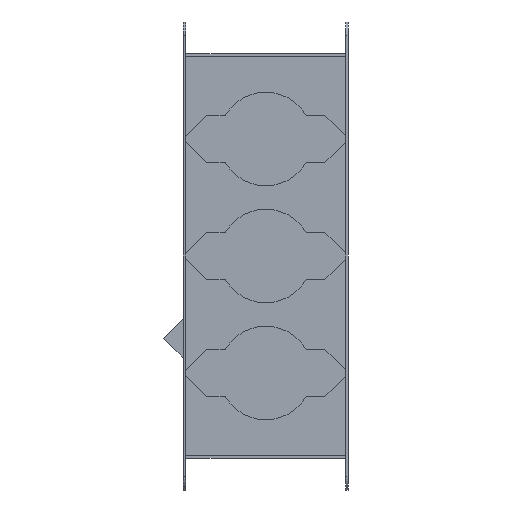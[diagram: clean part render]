
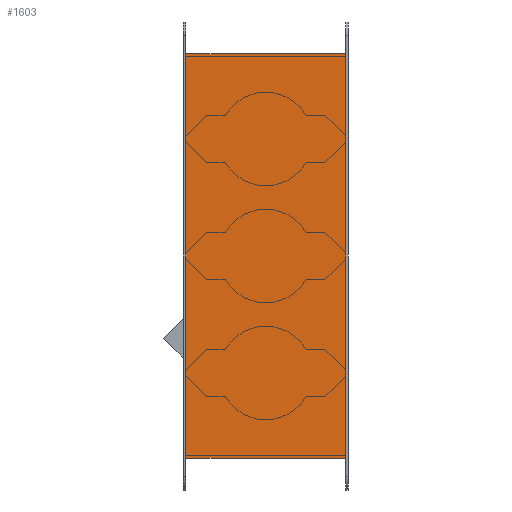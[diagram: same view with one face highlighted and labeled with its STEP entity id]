
A CAD part, left-side view. The second image highlights one B-rep face of the part: STEP entity #1603.
In plain terms, the highlighted planar face has unit normal (-1, 0, 0).
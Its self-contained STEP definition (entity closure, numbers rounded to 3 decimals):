
#131=LINE('',#2647,#287);
#145=LINE('',#2686,#301);
#161=LINE('',#2729,#317);
#162=LINE('',#2730,#318);
#287=VECTOR('',#2101,10.);
#301=VECTOR('',#2133,10.);
#317=VECTOR('',#2183,10.);
#318=VECTOR('',#2184,10.);
#374=PLANE('',#1755);
#524=FACE_OUTER_BOUND('',#634,.T.);
#634=EDGE_LOOP('',(#1444,#1445,#1446,#1447));
#838=VERTEX_POINT('',#2644);
#839=VERTEX_POINT('',#2646);
#854=VERTEX_POINT('',#2683);
#855=VERTEX_POINT('',#2685);
#1034=EDGE_CURVE('',#839,#838,#131,.T.);
#1053=EDGE_CURVE('',#855,#854,#145,.T.);
#1075=EDGE_CURVE('',#855,#838,#161,.F.);
#1076=EDGE_CURVE('',#854,#839,#162,.T.);
#1444=ORIENTED_EDGE('',*,*,#1034,.T.);
#1445=ORIENTED_EDGE('',*,*,#1075,.F.);
#1446=ORIENTED_EDGE('',*,*,#1053,.T.);
#1447=ORIENTED_EDGE('',*,*,#1076,.T.);
#1603=ADVANCED_FACE('',(#524),#374,.T.);
#1755=AXIS2_PLACEMENT_3D('',#2728,#2181,#2182);
#2101=DIRECTION('',(0.,0.,-1.));
#2133=DIRECTION('',(0.,0.,1.));
#2181=DIRECTION('center_axis',(-1.,0.,0.));
#2182=DIRECTION('ref_axis',(0.,0.,1.));
#2183=DIRECTION('',(0.,-1.,0.));
#2184=DIRECTION('',(0.,1.,0.));
#2644=CARTESIAN_POINT('',(-247.,58.,-147.));
#2646=CARTESIAN_POINT('',(-247.,58.,147.));
#2647=CARTESIAN_POINT('',(-247.,58.,-72.5));
#2683=CARTESIAN_POINT('',(-247.,-58.,147.));
#2685=CARTESIAN_POINT('',(-247.,-58.,-147.));
#2686=CARTESIAN_POINT('',(-247.,-58.,-72.5));
#2728=CARTESIAN_POINT('Origin',(-247.,-60.,-145.));
#2729=CARTESIAN_POINT('',(-247.,-60.,-147.));
#2730=CARTESIAN_POINT('',(-247.,-60.,147.));
